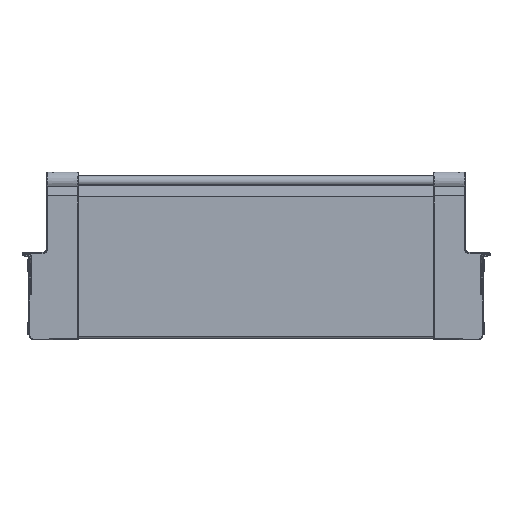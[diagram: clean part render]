
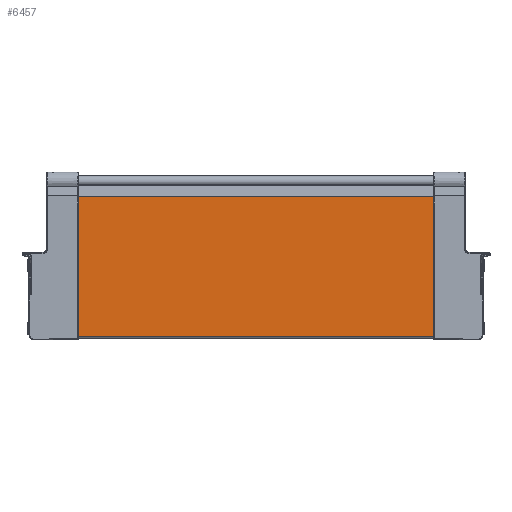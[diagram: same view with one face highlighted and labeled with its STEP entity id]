
A CAD part, top view. The second image highlights one B-rep face of the part: STEP entity #6457.
In plain terms, the highlighted planar face has unit normal (0, 0, 1).
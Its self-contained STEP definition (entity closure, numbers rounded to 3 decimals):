
#2401 = CARTESIAN_POINT ( 'NONE',  ( -38.8, -64.725, 4.05 ) ) ;
#2466 = DIRECTION ( 'NONE',  ( 0., -1., 0. ) ) ;
#2467 = VECTOR ( 'NONE', #2466, 1000. ) ;
#2468 = CARTESIAN_POINT ( 'NONE',  ( -38.8, 45.248, 4.05 ) ) ;
#2469 = LINE ( 'NONE', #2468, #2467 ) ;
#2564 = CARTESIAN_POINT ( 'NONE',  ( -38.8, 45.248, 4.05 ) ) ;
#6454 = VERTEX_POINT ( 'NONE', #9167 ) ;
#6456 = EDGE_CURVE ( 'NONE', #7821, #6454, #9166, .T. ) ;
#6457 = ADVANCED_FACE ( 'NONE', ( #9162 ), #9161, .F. ) ;
#6458 = EDGE_LOOP ( 'NONE', ( #6459, #6460, #6461, #6517 ) ) ;
#6459 = ORIENTED_EDGE ( 'NONE', *, *, #7779, .F. ) ;
#6460 = ORIENTED_EDGE ( 'NONE', *, *, #6456, .T. ) ;
#6461 = ORIENTED_EDGE ( 'NONE', *, *, #6462, .T. ) ;
#6462 = EDGE_CURVE ( 'NONE', #6454, #6463, #9156, .T. ) ;
#6463 = VERTEX_POINT ( 'NONE', #9152 ) ;
#6517 = ORIENTED_EDGE ( 'NONE', *, *, #6518, .F. ) ;
#6518 = EDGE_CURVE ( 'NONE', #7733, #6463, #9256, .T. ) ;
#7733 = VERTEX_POINT ( 'NONE', #2401 ) ;
#7779 = EDGE_CURVE ( 'NONE', #7821, #7733, #2469, .T. ) ;
#7821 = VERTEX_POINT ( 'NONE', #2564 ) ;
#9152 = CARTESIAN_POINT ( 'NONE',  ( -318.3, -64.725, 4.05 ) ) ;
#9153 = DIRECTION ( 'NONE',  ( 0., -1., 0. ) ) ;
#9154 = VECTOR ( 'NONE', #9153, 1000. ) ;
#9155 = CARTESIAN_POINT ( 'NONE',  ( -318.3, 45.248, 4.05 ) ) ;
#9156 = LINE ( 'NONE', #9155, #9154 ) ;
#9157 = DIRECTION ( 'NONE',  ( 0., 1., 0. ) ) ;
#9158 = DIRECTION ( 'NONE',  ( 0., 0., -1. ) ) ;
#9159 = CARTESIAN_POINT ( 'NONE',  ( 89.157, 45.248, 4.05 ) ) ;
#9160 = AXIS2_PLACEMENT_3D ( 'NONE', #9159, #9158, #9157 ) ;
#9161 = PLANE ( 'NONE',  #9160 ) ;
#9162 = FACE_OUTER_BOUND ( 'NONE', #6458, .T. ) ;
#9163 = DIRECTION ( 'NONE',  ( -1., 0., 0. ) ) ;
#9164 = VECTOR ( 'NONE', #9163, 1000. ) ;
#9165 = CARTESIAN_POINT ( 'NONE',  ( 89.157, 45.248, 4.05 ) ) ;
#9166 = LINE ( 'NONE', #9165, #9164 ) ;
#9167 = CARTESIAN_POINT ( 'NONE',  ( -318.3, 45.248, 4.05 ) ) ;
#9253 = DIRECTION ( 'NONE',  ( -1., 0., 0. ) ) ;
#9254 = VECTOR ( 'NONE', #9253, 1000. ) ;
#9255 = CARTESIAN_POINT ( 'NONE',  ( 89.157, -64.725, 4.05 ) ) ;
#9256 = LINE ( 'NONE', #9255, #9254 ) ;
